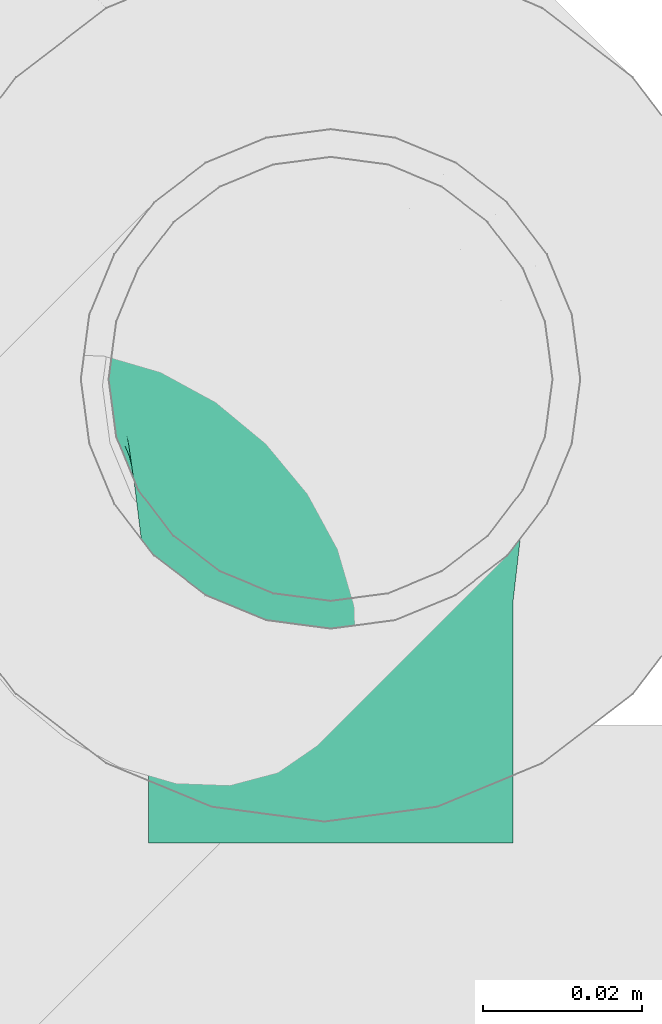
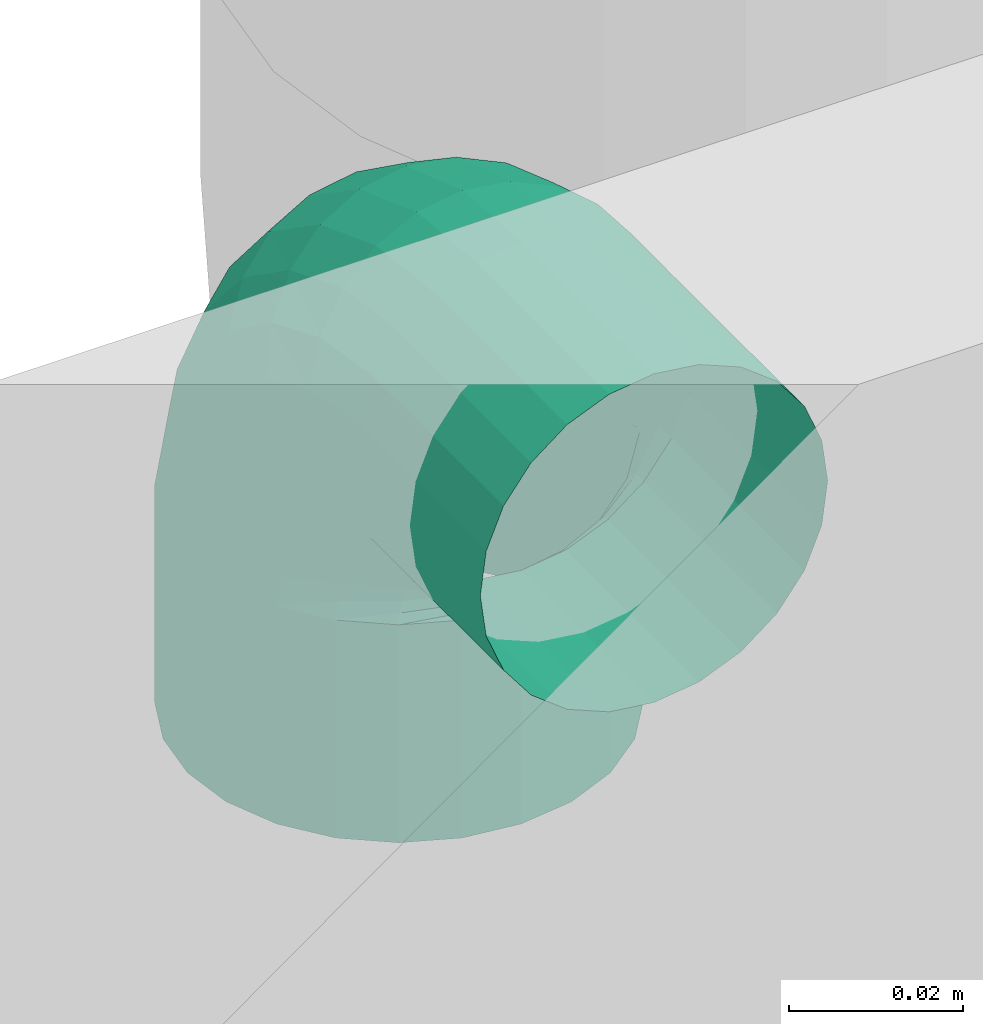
# One storey, part 140 of 374: 1 flow fitting.
"""IFC2X3 building model written with IfcOpenShell, lengths in metres."""

from ifc_helpers import new_model, si_unit, direction, origin, place, context, subcontext, project, spatial, open_shell, surface_model, source, transform, mapped, element, save


model = new_model("IFC2X3")

# Units and contexts
model_context = context("Model", 3, precision=1e-05, world=origin(), true_north=direction((-0.4480736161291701, 0.8939966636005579)))
body_context = subcontext(model_context, "Body", "Model", "MODEL_VIEW")
ifc_project = project(units=[si_unit("LENGTHUNIT", "METRE"), si_unit("AREAUNIT", "SQUARE_METRE"), si_unit("VOLUMEUNIT", "CUBIC_METRE"), si_unit("PLANEANGLEUNIT", "RADIAN"), si_unit("THERMODYNAMICTEMPERATUREUNIT", "KELVIN"), si_unit("MASSUNIT", "GRAM", prefix="KILO"), si_unit("TIMEUNIT", "SECOND")], contexts=[model_context])

# Site, building, storey
site_placement = place(None, origin())
site = spatial("IfcSite", under=ifc_project, at=site_placement, Name="Site 1", CompositionType="ELEMENT")
building_placement = place(site_placement, origin())
building = spatial("IfcBuilding", under=site, at=building_placement, Name="Undefined", CompositionType="ELEMENT")
storey_placement = place(building_placement, origin())
storey = spatial("IfcBuildingStorey", under=building, at=storey_placement, Name="Rez de chauss\x8ee", CompositionType="ELEMENT", Elevation=0.0)

# Flow fitting
shared_shape = source(origin(), body_context, "Body", "SurfaceModel", [
    surface_model("IfcFaceBasedSurfaceModel", [(0.0, 0.007309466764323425, 0.0), (0.0, 0.0, 0.0), (0.030500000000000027, 8.8817842e-16, 0.0), (0.030500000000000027, 0.007309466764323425, 0.0), (0.0, -0.007060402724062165, -0.0018918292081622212), (0.030500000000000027, -0.007060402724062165, -0.0018918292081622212), (0.0, -0.013390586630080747, -0.00554656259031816), (0.030500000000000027, -0.013390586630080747, -0.00554656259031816), (0.0, -0.018559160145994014, -0.010715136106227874), (0.030500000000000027, -0.018559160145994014, -0.010715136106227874), (0.0, -0.022213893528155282, -0.017045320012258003), (0.030500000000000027, -0.022213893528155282, -0.017045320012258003), (0.0, -0.02410572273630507, -0.02410572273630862), (0.030500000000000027, -0.02410572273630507, -0.02410572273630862), (0.0, -0.024105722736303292, -0.03141518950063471), (0.030500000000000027, -0.024105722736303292, -0.03141518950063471), (0.0, -0.022213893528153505, -0.03847559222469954), (0.030500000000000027, -0.022213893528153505, -0.03847559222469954), (0.0, -0.01855916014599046, -0.04480577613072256), (0.030500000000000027, -0.01855916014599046, -0.04480577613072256), (0.0, -0.01339058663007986, -0.04997434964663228), (0.030500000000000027, -0.01339058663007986, -0.04997434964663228), (0.0, -0.007060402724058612, -0.05362908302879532), (0.030500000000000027, -0.007060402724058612, -0.05362908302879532), (0.0, 2.664535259e-15, -0.05552091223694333), (0.030500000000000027, 2.664535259e-15, -0.05552091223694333), (0.0, 0.007309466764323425, -0.05552091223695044), (0.030500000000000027, 0.007309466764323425, -0.05552091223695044), (0.0, 0.014369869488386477, -0.053629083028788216), (0.030500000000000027, 0.014369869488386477, -0.053629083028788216), (0.0, 0.02070005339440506, -0.04997434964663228), (0.030500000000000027, 0.02070005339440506, -0.04997434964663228), (0.0, 0.025868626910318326, -0.04480577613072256), (0.030500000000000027, 0.025868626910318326, -0.04480577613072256), (0.0, 0.029523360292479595, -0.038475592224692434), (0.030500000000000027, 0.029523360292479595, -0.038475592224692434), (0.0, 0.03141518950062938, -0.031415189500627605), (0.030500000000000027, 0.03141518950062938, -0.031415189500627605), (0.0, 0.031415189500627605, -0.024105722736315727), (0.030500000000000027, 0.031415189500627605, -0.024105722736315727), (0.0, 0.029523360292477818, -0.017045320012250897), (0.030500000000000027, 0.029523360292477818, -0.017045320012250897), (0.0, 0.025868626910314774, -0.010715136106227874), (0.030500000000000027, 0.025868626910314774, -0.010715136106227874), (0.0, 0.020700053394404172, -0.00554656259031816), (0.030500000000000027, 0.020700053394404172, -0.00554656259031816), (0.0, 0.014369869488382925, -0.0018918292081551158), (0.030500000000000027, 0.014369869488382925, -0.0018918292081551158), (0.04453859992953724, -0.021447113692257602, -0.03154765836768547), (0.04477818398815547, -0.02141584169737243, -0.0244598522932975), (0.05721802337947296, -0.015355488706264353, -0.03213209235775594), (0.05766666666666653, -0.015236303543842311, -0.025273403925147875), (0.06771581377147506, -0.006343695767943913, -0.033100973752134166), (0.06833021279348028, -0.006091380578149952, -0.026477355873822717), (0.0753827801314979, 0.004890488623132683, -0.03436243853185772), (0.0761106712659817, 0.005307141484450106, -0.027977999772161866), (0.07978272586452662, 0.017517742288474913, -0.03580730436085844), (0.08056715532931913, 0.018114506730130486, -0.02966412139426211), (0.08071629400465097, 0.030638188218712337, -0.037317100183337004), (0.08150000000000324, 0.03141518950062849, -0.0314151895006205), (0.0438361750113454, -0.01970327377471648, -0.03838585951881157), (0.05590266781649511, -0.013925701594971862, -0.03872622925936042), (0.06591448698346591, -0.005360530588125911, -0.0394335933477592), (0.07324871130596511, 0.0053355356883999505, -0.04042149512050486), (0.07748289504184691, 0.017378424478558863, -0.04158670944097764), (0.07841858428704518, 0.029914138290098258, -0.0428168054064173), (0.04271877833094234, -0.0163031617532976, -0.04450844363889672), (0.053810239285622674, -0.011044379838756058, -0.04460643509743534), (0.0630489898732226, -0.0032088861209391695, -0.04504365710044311), (0.06985389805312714, 0.006611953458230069, -0.045742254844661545), (0.07382439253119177, 0.01770604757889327, -0.04660847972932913), (0.0747634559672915, 0.029292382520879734, -0.047539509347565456), (0.04126255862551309, -0.011478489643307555, -0.04949816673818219), (0.05108333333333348, -0.0069078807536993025, -0.04937198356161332), (0.0593146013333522, -3.539338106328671e-05, -0.049548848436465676), (0.0654296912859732, 0.008632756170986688, -0.049962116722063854), (0.06905653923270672, 0.018478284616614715, -0.05053038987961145), (0.07000000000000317, 0.02881529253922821, -0.05116336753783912), (0.03956675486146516, -0.0055580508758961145, -0.05301498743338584), (0.04790778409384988, -0.0017980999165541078, -0.05269811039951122), (0.054965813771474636, 0.003943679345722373, -0.0526421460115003), (0.06027759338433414, 0.01126022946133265, -0.05279350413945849), (0.06350425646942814, 0.01964250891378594, -0.053085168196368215), (0.0644528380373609, 0.0285153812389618, -0.053441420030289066), (0.03774693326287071, 0.0010546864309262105, -0.05481924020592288), (0.04450000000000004, 0.003936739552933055, -0.05435814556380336), (0.050298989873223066, 0.008457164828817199, -0.054112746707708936), (0.054748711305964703, 0.014315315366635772, -0.05404346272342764), (0.05754592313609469, 0.021119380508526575, -0.054098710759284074), (0.05850000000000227, 0.028413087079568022, -0.05421842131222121), (0.03592711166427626, 0.007909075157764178, -0.05478796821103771), (0.041092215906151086, 0.009905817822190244, -0.05423896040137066), (0.04563216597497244, 0.01319747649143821, -0.05386043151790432), (0.04921982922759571, 0.017589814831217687, -0.053626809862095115), (0.05158758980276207, 0.022808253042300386, -0.05350194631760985), (0.05254716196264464, 0.0285153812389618, -0.053441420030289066), (0.03423130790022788, 0.014538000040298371, -0.05292330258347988), (0.03791666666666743, 0.01570235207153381, -0.05234867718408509), (0.04128337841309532, 0.017841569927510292, -0.05190239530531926), (0.04406773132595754, 0.020860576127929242, -0.05157193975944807), (0.0460353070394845, 0.024594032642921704, -0.051335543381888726), (0.047000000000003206, 0.02881529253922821, -0.05116336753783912), (0.03277508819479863, 0.020489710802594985, -0.04935231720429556), (0.03518976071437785, 0.020931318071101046, -0.048816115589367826), (0.03754898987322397, 0.022072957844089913, -0.04837207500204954), (0.03964352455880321, 0.023904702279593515, -0.048018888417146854), (0.04126745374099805, 0.02635502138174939, -0.04774713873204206), (0.0422365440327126, 0.029292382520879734, -0.047539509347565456), (0.031657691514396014, 0.025358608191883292, -0.044318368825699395), (0.03309733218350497, 0.025236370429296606, -0.043882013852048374), (0.03468349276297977, 0.02560327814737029, -0.04351005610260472), (0.03624871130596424, 0.026514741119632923, -0.04320979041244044), (0.03760895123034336, 0.02797121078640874, -0.0429812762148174), (0.038581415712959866, 0.029914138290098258, -0.0428168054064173), (0.030955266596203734, 0.02881288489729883, -0.038164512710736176), (0.03178197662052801, 0.02832412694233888, -0.037882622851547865), (0.03288216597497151, 0.02819194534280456, -0.037647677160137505), (0.034114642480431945, 0.028512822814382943, -0.03747237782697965), (0.03530912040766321, 0.02933246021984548, -0.037362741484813), (0.03628370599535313, 0.030638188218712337, -0.037317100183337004), (0.030715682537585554, 0.0306171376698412, -0.031310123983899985), (0.031333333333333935, 0.02998416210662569, -0.031226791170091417), (0.03226776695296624, 0.02966254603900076, -0.03118444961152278), (0.03338675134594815, 0.029762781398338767, -0.031197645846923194), (0.03452469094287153, 0.030346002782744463, -0.03127442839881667), (0.035500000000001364, 0.03141518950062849, -0.0314151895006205), (0.030955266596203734, 0.030648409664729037, -0.024222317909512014), (0.03178197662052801, 0.030103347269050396, -0.024368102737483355), (0.03288216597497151, 0.029914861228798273, -0.02456083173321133), (0.034114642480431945, 0.030179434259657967, -0.02481320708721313), (0.03530912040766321, 0.030942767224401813, -0.02513124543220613), (0.03628370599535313, 0.03219219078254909, -0.025513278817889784), (0.031657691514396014, 0.028904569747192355, -0.01738411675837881), (0.03309733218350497, 0.02867356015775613, -0.017773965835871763), (0.03468349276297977, 0.028931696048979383, -0.01822821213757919), (0.03624871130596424, 0.0297343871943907, -0.018754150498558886), (0.03760895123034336, 0.031082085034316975, -0.019351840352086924), (0.038581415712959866, 0.03291624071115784, -0.02001357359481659), (0.03277508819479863, 0.025504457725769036, -0.01126153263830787), (0.03518976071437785, 0.025792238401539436, -0.011893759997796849), (0.03754898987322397, 0.02678005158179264, -0.012618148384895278), (0.03964352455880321, 0.02845796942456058, -0.013433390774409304), (0.04126745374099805, 0.030754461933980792, -0.014330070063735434), (0.0422365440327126, 0.033537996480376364, -0.015290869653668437), (0.03423130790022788, 0.020679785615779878, -0.006271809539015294), (0.03791666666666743, 0.021655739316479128, -0.007128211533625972), (0.04128337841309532, 0.023606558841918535, -0.00811295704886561), (0.04406773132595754, 0.02643716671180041, -0.00921352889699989), (0.0460353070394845, 0.02998222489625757, -0.010408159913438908), (0.047000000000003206, 0.034015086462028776, -0.011667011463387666), (0.03592711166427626, 0.01475934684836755, -0.002754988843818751), (0.041092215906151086, 0.016545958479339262, -0.0038020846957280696), (0.04563216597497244, 0.019627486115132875, -0.0050196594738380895), (0.04921982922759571, 0.023809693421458, -0.006382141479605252), (0.05158758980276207, 0.028818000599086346, -0.007853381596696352), (0.05254716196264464, 0.0343149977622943, -0.009388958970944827), (0.03774693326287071, 0.008146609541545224, -0.0009507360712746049), (0.04450000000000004, 0.010811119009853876, -0.00214204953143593), (0.050298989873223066, 0.01511400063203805, -0.0035490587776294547), (0.054748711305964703, 0.020754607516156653, -0.005132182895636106), (0.05754592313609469, 0.027341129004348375, -0.006839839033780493), (0.05850000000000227, 0.034417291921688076, -0.008611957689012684), (0.03956675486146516, 0.0012922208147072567, -0.000982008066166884), (0.04790778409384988, 0.004842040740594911, -0.00226123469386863), (0.054965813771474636, 0.010373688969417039, -0.003801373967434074), (0.06027759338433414, 0.017480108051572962, -0.005548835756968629), (0.06350425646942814, 0.0256522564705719, -0.007436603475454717), (0.0644528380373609, 0.0343149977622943, -0.009388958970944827), (0.04126255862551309, -0.005336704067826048, -0.002846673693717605), (0.05108333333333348, -0.0009544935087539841, -0.004151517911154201), (0.0593146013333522, 0.0057295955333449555, -0.005759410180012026), (0.0654296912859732, 0.014209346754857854, -0.007603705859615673), (0.06905653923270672, 0.02386647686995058, -0.00960300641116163), (0.07000000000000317, 0.034015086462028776, -0.011667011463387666), (0.04271877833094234, -0.01128841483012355, -0.006417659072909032), (0.053810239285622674, -0.006183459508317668, -0.007684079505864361), (0.0630489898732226, 0.0014982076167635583, -0.00928973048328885), (0.06985389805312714, 0.011165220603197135, -0.0111567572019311), (0.07382439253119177, 0.022105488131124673, -0.013191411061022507), (0.0747634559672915, 0.033537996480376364, -0.015290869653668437), (0.0438361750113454, -0.016157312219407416, -0.011451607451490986), (0.05590266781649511, -0.01048851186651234, -0.012618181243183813), (0.06591448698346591, -0.002032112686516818, -0.01415174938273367), (0.07324871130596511, 0.008555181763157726, -0.015965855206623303), (0.07748289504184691, 0.020489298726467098, -0.017957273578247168), (0.07841858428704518, 0.03291624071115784, -0.02001357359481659), (0.04453859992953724, -0.019611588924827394, -0.01760546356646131), (0.05721802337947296, -0.013576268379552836, -0.018617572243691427), (0.06771581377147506, -0.004620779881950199, -0.02001412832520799), (0.0753827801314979, 0.006557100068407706, -0.021703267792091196), (0.07978272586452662, 0.019128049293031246, -0.023575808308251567), (0.08071629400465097, 0.03219219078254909, -0.025513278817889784), (0.08071629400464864, 0.0608772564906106, -0.041298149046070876), (0.08150000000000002, 0.06165425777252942, -0.03539623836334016), (0.07841858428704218, 0.060153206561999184, -0.04679785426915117), (0.07476345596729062, 0.05953145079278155, -0.05152055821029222), (0.07000000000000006, 0.05905436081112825, -0.0551444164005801), (0.06445283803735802, 0.05875444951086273, -0.05742246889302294), (0.058499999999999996, 0.05865215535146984, -0.058199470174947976), (0.05254716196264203, 0.05875444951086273, -0.05742246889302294), (0.04700000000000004, 0.05905436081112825, -0.0551444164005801), (0.04223654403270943, 0.05953145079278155, -0.05152055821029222), (0.03858141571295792, 0.060153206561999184, -0.04679785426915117), (0.03628370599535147, 0.0608772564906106, -0.041298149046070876), (0.03550000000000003, 0.06165425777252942, -0.03539623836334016), (0.03628370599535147, 0.06243125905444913, -0.02949432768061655), (0.03858141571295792, 0.06315530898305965, -0.023994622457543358), (0.04223654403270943, 0.06377706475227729, -0.01927191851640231), (0.04700000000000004, 0.06425415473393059, -0.015648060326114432), (0.05254716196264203, 0.06455406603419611, -0.013370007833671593), (0.058499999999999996, 0.064656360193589, -0.012593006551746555), (0.06445283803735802, 0.06455406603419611, -0.013370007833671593), (0.07000000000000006, 0.06425415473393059, -0.015648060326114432), (0.07476345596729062, 0.06377706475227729, -0.01927191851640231), (0.07841858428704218, 0.06315530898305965, -0.023994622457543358), (0.08071629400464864, 0.06243125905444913, -0.02949432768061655)], [open_shell([[[0, 1, 2, 3]], [[1, 4, 5, 2]], [[4, 6, 7, 5]], [[6, 8, 9, 7]], [[8, 10, 11, 9]], [[10, 12, 13, 11]], [[12, 14, 15, 13]], [[14, 16, 17, 15]], [[16, 18, 19, 17]], [[18, 20, 21, 19]], [[20, 22, 23, 21]], [[22, 24, 25, 23]], [[24, 26, 27, 25]], [[26, 28, 29, 27]], [[28, 30, 31, 29]], [[30, 32, 33, 31]], [[32, 34, 35, 33]], [[34, 36, 37, 35]], [[36, 38, 39, 37]], [[38, 40, 41, 39]], [[40, 42, 43, 41]], [[42, 44, 45, 43]], [[44, 46, 47, 45]], [[46, 0, 3, 47]], [[13, 15, 48]], [[48, 49, 13]], [[49, 48, 50]], [[50, 51, 49]], [[51, 50, 52]], [[52, 53, 51]], [[53, 52, 54]], [[54, 55, 53]], [[55, 54, 56]], [[56, 57, 55]], [[57, 56, 58]], [[58, 59, 57]], [[15, 17, 60]], [[60, 48, 15]], [[48, 60, 61]], [[61, 50, 48]], [[50, 61, 62]], [[62, 52, 50]], [[52, 62, 63]], [[63, 54, 52]], [[54, 63, 64]], [[64, 56, 54]], [[56, 64, 65]], [[65, 58, 56]], [[17, 19, 66]], [[66, 60, 17]], [[60, 66, 67]], [[67, 61, 60]], [[61, 67, 68]], [[68, 62, 61]], [[62, 68, 69]], [[69, 63, 62]], [[63, 69, 70]], [[70, 64, 63]], [[64, 70, 71]], [[71, 65, 64]], [[19, 21, 72]], [[72, 66, 19]], [[66, 72, 73]], [[73, 67, 66]], [[67, 73, 74]], [[74, 68, 67]], [[68, 74, 75]], [[75, 69, 68]], [[69, 75, 76]], [[76, 70, 69]], [[70, 76, 77]], [[77, 71, 70]], [[21, 23, 78]], [[78, 72, 21]], [[72, 78, 79]], [[79, 73, 72]], [[73, 79, 80]], [[80, 74, 73]], [[74, 80, 81]], [[81, 75, 74]], [[75, 81, 82]], [[82, 76, 75]], [[76, 82, 83]], [[83, 77, 76]], [[23, 25, 84]], [[84, 78, 23]], [[78, 84, 85]], [[85, 79, 78]], [[79, 85, 86]], [[86, 80, 79]], [[80, 86, 87]], [[87, 81, 80]], [[81, 87, 88]], [[88, 82, 81]], [[82, 88, 89]], [[89, 83, 82]], [[25, 27, 90]], [[90, 84, 25]], [[84, 90, 91]], [[91, 85, 84]], [[85, 91, 92]], [[92, 86, 85]], [[86, 92, 93]], [[93, 87, 86]], [[87, 93, 94]], [[94, 88, 87]], [[88, 94, 95]], [[95, 89, 88]], [[27, 29, 96]], [[96, 90, 27]], [[90, 96, 97]], [[97, 91, 90]], [[91, 97, 98]], [[98, 92, 91]], [[92, 98, 99]], [[99, 93, 92]], [[93, 99, 100]], [[100, 94, 93]], [[94, 100, 101]], [[101, 95, 94]], [[29, 31, 102]], [[102, 96, 29]], [[96, 102, 103]], [[103, 97, 96]], [[97, 103, 104]], [[104, 98, 97]], [[98, 104, 105]], [[105, 99, 98]], [[99, 105, 106]], [[106, 100, 99]], [[100, 106, 107]], [[107, 101, 100]], [[31, 33, 108]], [[108, 102, 31]], [[102, 108, 109]], [[109, 103, 102]], [[103, 109, 110]], [[110, 104, 103]], [[104, 110, 111]], [[111, 105, 104]], [[105, 111, 112]], [[112, 106, 105]], [[106, 112, 113]], [[113, 107, 106]], [[33, 35, 114]], [[114, 108, 33]], [[108, 114, 115]], [[115, 109, 108]], [[109, 115, 116]], [[116, 110, 109]], [[110, 116, 117]], [[117, 111, 110]], [[111, 117, 118]], [[118, 112, 111]], [[112, 118, 119]], [[119, 113, 112]], [[35, 37, 120]], [[120, 114, 35]], [[114, 120, 121]], [[121, 115, 114]], [[115, 121, 122]], [[122, 116, 115]], [[116, 122, 123]], [[123, 117, 116]], [[117, 123, 124]], [[124, 118, 117]], [[118, 124, 125]], [[125, 119, 118]], [[37, 39, 126]], [[126, 120, 37]], [[120, 126, 127]], [[127, 121, 120]], [[121, 127, 128]], [[128, 122, 121]], [[122, 128, 129]], [[129, 123, 122]], [[123, 129, 130]], [[130, 124, 123]], [[124, 130, 131]], [[131, 125, 124]], [[39, 41, 132]], [[132, 126, 39]], [[126, 132, 133]], [[133, 127, 126]], [[127, 133, 134]], [[134, 128, 127]], [[128, 134, 135]], [[135, 129, 128]], [[129, 135, 136]], [[136, 130, 129]], [[130, 136, 137]], [[137, 131, 130]], [[41, 43, 138]], [[138, 132, 41]], [[132, 138, 139]], [[139, 133, 132]], [[133, 139, 140]], [[140, 134, 133]], [[134, 140, 141]], [[141, 135, 134]], [[135, 141, 142]], [[142, 136, 135]], [[136, 142, 143]], [[143, 137, 136]], [[43, 45, 144]], [[144, 138, 43]], [[138, 144, 145]], [[145, 139, 138]], [[139, 145, 146]], [[146, 140, 139]], [[140, 146, 147]], [[147, 141, 140]], [[141, 147, 148]], [[148, 142, 141]], [[142, 148, 149]], [[149, 143, 142]], [[45, 47, 150]], [[150, 144, 45]], [[144, 150, 151]], [[151, 145, 144]], [[145, 151, 152]], [[152, 146, 145]], [[146, 152, 153]], [[153, 147, 146]], [[147, 153, 154]], [[154, 148, 147]], [[148, 154, 155]], [[155, 149, 148]], [[47, 3, 156]], [[156, 150, 47]], [[150, 156, 157]], [[157, 151, 150]], [[151, 157, 158]], [[158, 152, 151]], [[152, 158, 159]], [[159, 153, 152]], [[153, 159, 160]], [[160, 154, 153]], [[154, 160, 161]], [[161, 155, 154]], [[3, 2, 162]], [[162, 156, 3]], [[156, 162, 163]], [[163, 157, 156]], [[157, 163, 164]], [[164, 158, 157]], [[158, 164, 165]], [[165, 159, 158]], [[159, 165, 166]], [[166, 160, 159]], [[160, 166, 167]], [[167, 161, 160]], [[2, 5, 168]], [[168, 162, 2]], [[162, 168, 169]], [[169, 163, 162]], [[163, 169, 170]], [[170, 164, 163]], [[164, 170, 171]], [[171, 165, 164]], [[165, 171, 172]], [[172, 166, 165]], [[166, 172, 173]], [[173, 167, 166]], [[5, 7, 174]], [[174, 168, 5]], [[168, 174, 175]], [[175, 169, 168]], [[169, 175, 176]], [[176, 170, 169]], [[170, 176, 177]], [[177, 171, 170]], [[171, 177, 178]], [[178, 172, 171]], [[172, 178, 179]], [[179, 173, 172]], [[7, 9, 180]], [[180, 174, 7]], [[174, 180, 181]], [[181, 175, 174]], [[175, 181, 182]], [[182, 176, 175]], [[176, 182, 183]], [[183, 177, 176]], [[177, 183, 184]], [[184, 178, 177]], [[178, 184, 185]], [[185, 179, 178]], [[9, 11, 186]], [[186, 180, 9]], [[180, 186, 187]], [[187, 181, 180]], [[181, 187, 188]], [[188, 182, 181]], [[182, 188, 189]], [[189, 183, 182]], [[183, 189, 190]], [[190, 184, 183]], [[184, 190, 191]], [[191, 185, 184]], [[11, 13, 49]], [[49, 186, 11]], [[186, 49, 51]], [[51, 187, 186]], [[187, 51, 53]], [[53, 188, 187]], [[188, 53, 55]], [[55, 189, 188]], [[189, 55, 57]], [[57, 190, 189]], [[190, 57, 59]], [[59, 191, 190]], [[59, 58, 192, 193]], [[58, 65, 194, 192]], [[65, 71, 195, 194]], [[71, 77, 196, 195]], [[77, 83, 197, 196]], [[83, 89, 198, 197]], [[89, 95, 199, 198]], [[95, 101, 200, 199]], [[101, 107, 201, 200]], [[107, 113, 202, 201]], [[113, 119, 203, 202]], [[119, 125, 204, 203]], [[125, 131, 205, 204]], [[131, 137, 206, 205]], [[137, 143, 207, 206]], [[143, 149, 208, 207]], [[149, 155, 209, 208]], [[155, 161, 210, 209]], [[161, 167, 211, 210]], [[167, 173, 212, 211]], [[173, 179, 213, 212]], [[179, 185, 214, 213]], [[185, 191, 215, 214]], [[191, 59, 193, 215]]])]),
])
flow_fitting_placement = place(storey_placement, origin())
element("IfcFlowFitting", 1, at=flow_fitting_placement, inside=storey, Name="PE-HD équerre avec mamachon de raccordement pour siphon", ObjectType="PE-HD équerre avec mamachon de raccordement pour siphon", context=body_context, shape_type="MappedRepresentation", body=[
    mapped(shared_shape, transform((58.60205345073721, 13.418958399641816, 0.4410518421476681), x_axis=(0.0, 0.0, 1.0), y_axis=(0.13052619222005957, -0.9914448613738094, 0.0), z_axis=(0.9914448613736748, 0.13052619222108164, 0.0))),
])

save(model, "model.ifc")
